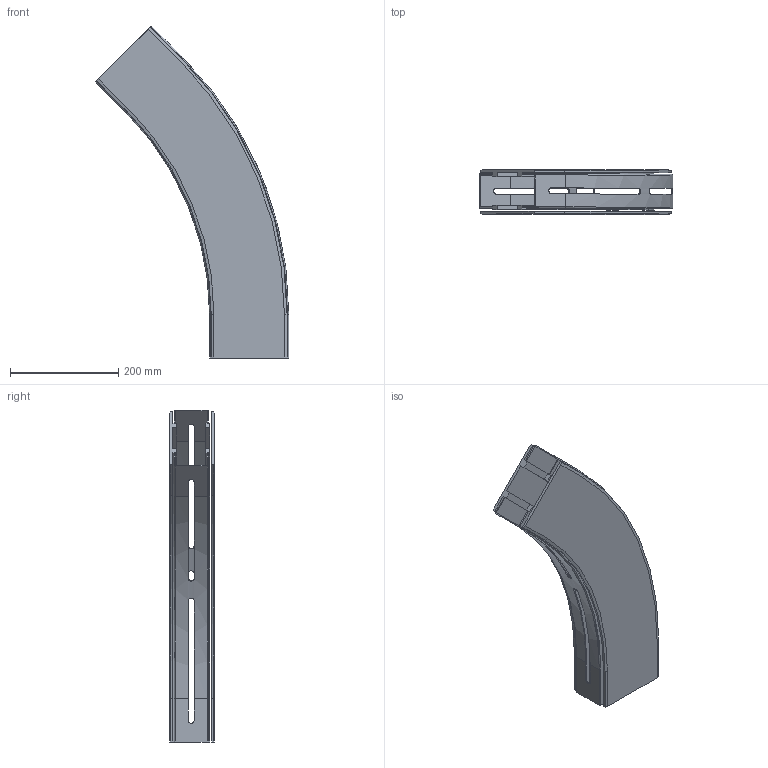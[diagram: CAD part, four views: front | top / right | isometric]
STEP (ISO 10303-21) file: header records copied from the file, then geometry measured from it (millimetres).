
FILE_DESCRIPTION((''),'2;1');
FILE_NAME('C:\Vault Klient\Projekt\Koncept konstruktion\Serie 540 Balk\540-5350.stp','2010-11-25T08:03:22',('Mathias'),(''),'Autodesk Inventor 2011','Autodesk Inventor 2011','');
FILE_SCHEMA(('AUTOMOTIVE_DESIGN { 1 0 10303 214 1 1 1 1 }'));
Length unit declared in the file: millimetre
Products named in the file (1): 540-5350
Bounding box: 356.92 x 82 x 612.45 mm (x, y, z)
Volume: 1425532.9 mm3; surface area: 735369.7 mm2
Topology: 2 solids, 2 shells, 159 faces, 458 edges, 300 vertices
Faces by surface type: plane 101, cylinder 30, bspline 18, cone 6, torus 4
Entity records: 5570 total; most frequent: CARTESIAN_POINT 1340, ORIENTED_EDGE 916, DIRECTION 794, EDGE_CURVE 458, VECTOR 334, LINE 334, VERTEX_POINT 300, AXIS2_PLACEMENT_3D 230
